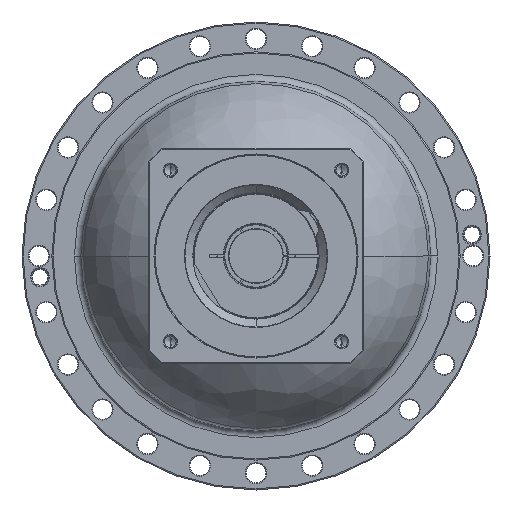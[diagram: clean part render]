
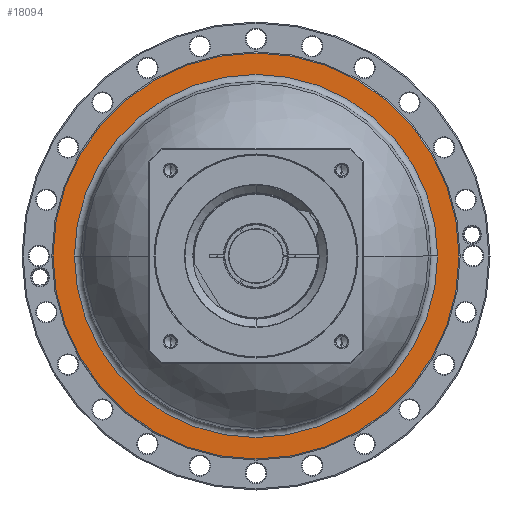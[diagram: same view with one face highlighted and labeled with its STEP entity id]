
A CAD part, left-side view. The second image highlights one B-rep face of the part: STEP entity #18094.
In plain terms, the highlighted planar face has unit normal (-1, 0, 0) as drawn and (1, 0, 0) by its records, which use the part's own axes.
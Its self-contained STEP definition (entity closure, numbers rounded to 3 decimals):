
#17543=CARTESIAN_POINT('',(-143.,0.,0.));
#17544=DIRECTION('',(-1.,0.,0.));
#17545=DIRECTION('',(0.,-1.,0.));
#17546=AXIS2_PLACEMENT_3D('',#17543,#17544,#17545);
#17548=CARTESIAN_POINT('',(-143.,0.,0.));
#17549=DIRECTION('',(-1.,0.,0.));
#17550=DIRECTION('',(0.,1.,0.));
#17551=AXIS2_PLACEMENT_3D('',#17548,#17549,#17550);
#17553=CARTESIAN_POINT('',(-143.,0.,0.));
#17554=DIRECTION('',(-1.,0.,0.));
#17555=DIRECTION('',(0.,-1.,0.));
#17556=AXIS2_PLACEMENT_3D('',#17553,#17554,#17555);
#17558=CARTESIAN_POINT('',(-143.,0.,0.));
#17559=DIRECTION('',(-1.,0.,0.));
#17560=DIRECTION('',(0.,1.,0.));
#17561=AXIS2_PLACEMENT_3D('',#17558,#17559,#17560);
#17683=CARTESIAN_POINT('',(-143.,-180.,0.));
#17684=CARTESIAN_POINT('',(-143.,180.,0.));
#17685=VERTEX_POINT('',#17683);
#17686=VERTEX_POINT('',#17684);
#17703=CARTESIAN_POINT('',(-143.,-161.,0.));
#17704=CARTESIAN_POINT('',(-143.,161.,0.));
#17705=VERTEX_POINT('',#17703);
#17706=VERTEX_POINT('',#17704);
#18079=CARTESIAN_POINT('',(-143.,0.,0.));
#18080=DIRECTION('',(1.,0.,0.));
#18081=DIRECTION('',(0.,-1.,0.));
#18082=AXIS2_PLACEMENT_3D('',#18079,#18080,#18081);
#18083=PLANE('',#18082);
#18085=ORIENTED_EDGE('',*,*,#18084,.T.);
#18087=ORIENTED_EDGE('',*,*,#18086,.T.);
#18088=EDGE_LOOP('',(#18085,#18087));
#18089=FACE_OUTER_BOUND('',#18088,.F.);
#18090=ORIENTED_EDGE('',*,*,#18059,.F.);
#18091=ORIENTED_EDGE('',*,*,#18073,.F.);
#18092=EDGE_LOOP('',(#18090,#18091));
#18093=FACE_BOUND('',#18092,.F.);
#18094=ADVANCED_FACE('',(#18089,#18093),#18083,.T.);
#17547=CIRCLE('',#17546,161.);
#17552=CIRCLE('',#17551,161.);
#17557=CIRCLE('',#17556,180.);
#17562=CIRCLE('',#17561,180.);
#18059=EDGE_CURVE('',#17705,#17706,#17547,.T.);
#18073=EDGE_CURVE('',#17706,#17705,#17552,.T.);
#18084=EDGE_CURVE('',#17685,#17686,#17557,.T.);
#18086=EDGE_CURVE('',#17686,#17685,#17562,.T.);
